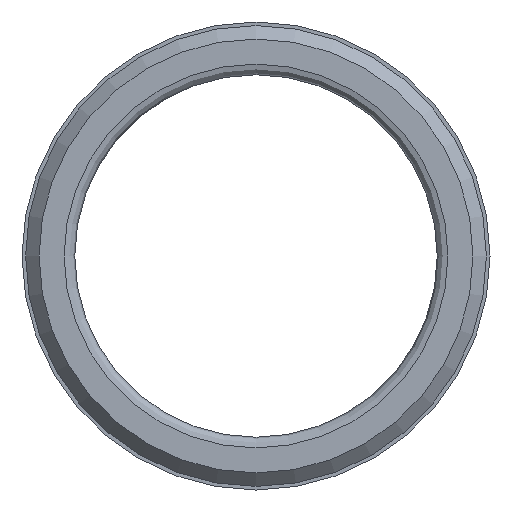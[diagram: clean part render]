
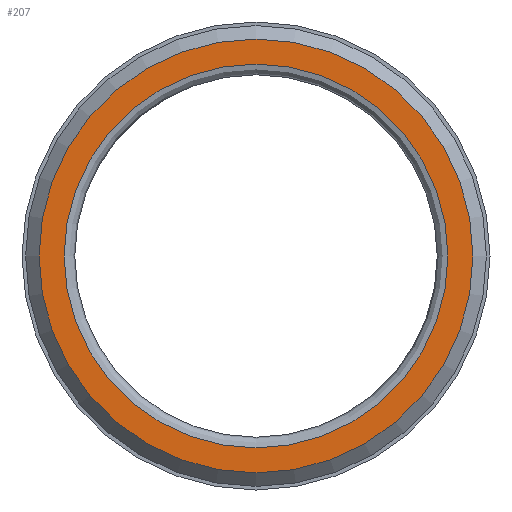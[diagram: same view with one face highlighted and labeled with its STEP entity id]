
A CAD part, front view. The second image highlights one B-rep face of the part: STEP entity #207.
In plain terms, the highlighted planar face has unit normal (0, -1, 0).
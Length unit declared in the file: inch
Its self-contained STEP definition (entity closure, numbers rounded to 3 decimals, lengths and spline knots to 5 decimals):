
#22=FACE_BOUND('',#44,.T.);
#26=PLANE('',#236);
#31=FACE_OUTER_BOUND('',#43,.T.);
#43=EDGE_LOOP('',(#150));
#44=EDGE_LOOP('',(#151,#152));
#68=CIRCLE('',#233,0.2035);
#71=CIRCLE('',#237,0.18);
#72=CIRCLE('',#238,0.18);
#93=VERTEX_POINT('',#352);
#96=VERTEX_POINT('',#360);
#97=VERTEX_POINT('',#361);
#115=EDGE_CURVE('',#93,#93,#68,.T.);
#119=EDGE_CURVE('',#96,#97,#71,.T.);
#120=EDGE_CURVE('',#97,#96,#72,.T.);
#150=ORIENTED_EDGE('',*,*,#115,.F.);
#151=ORIENTED_EDGE('',*,*,#119,.F.);
#152=ORIENTED_EDGE('',*,*,#120,.F.);
#207=ADVANCED_FACE('',(#31,#22),#26,.T.);
#233=AXIS2_PLACEMENT_3D('',#353,#273,#274);
#236=AXIS2_PLACEMENT_3D('',#359,#280,#281);
#237=AXIS2_PLACEMENT_3D('',#362,#282,#283);
#238=AXIS2_PLACEMENT_3D('',#363,#284,#285);
#273=DIRECTION('center_axis',(0.,1.,0.));
#274=DIRECTION('ref_axis',(0.,0.,1.));
#280=DIRECTION('center_axis',(0.,-1.,0.));
#281=DIRECTION('ref_axis',(0.,0.,-1.));
#282=DIRECTION('center_axis',(0.,-1.,0.));
#283=DIRECTION('ref_axis',(0.,0.,1.));
#284=DIRECTION('center_axis',(0.,-1.,0.));
#285=DIRECTION('ref_axis',(0.,0.,1.));
#352=CARTESIAN_POINT('',(0.,0.,-0.2035));
#353=CARTESIAN_POINT('Origin',(0.,0.,0.));
#359=CARTESIAN_POINT('Origin',(0.,0.,-0.17));
#360=CARTESIAN_POINT('',(0.,0.,-0.18));
#361=CARTESIAN_POINT('',(0.,0.,0.18));
#362=CARTESIAN_POINT('Origin',(0.,0.,0.));
#363=CARTESIAN_POINT('Origin',(0.,0.,0.));
